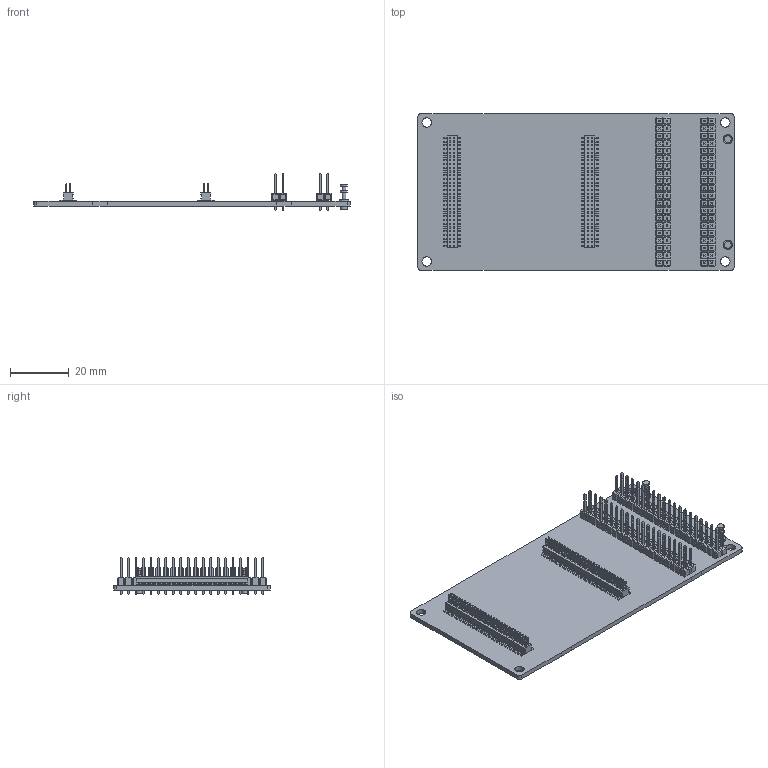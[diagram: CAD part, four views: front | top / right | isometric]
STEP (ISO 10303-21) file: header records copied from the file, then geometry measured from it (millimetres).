
FILE_DESCRIPTION(/* description */ (''),/* implementation_level */ '2;1');
FILE_NAME(/* name */ 'ABX00085-step.step',/* time_stamp */ '2026-03-24T12:04:50-04:00',/* author */ (''),/* organization */ (''),/* preprocessor_version */ 'ST-DEVELOPER v20.1',/* originating_system */ 'Autodesk Translation Framework v14.24.0.0',/* authorisation */ '');
FILE_SCHEMA (('AUTOMOTIVE_DESIGN { 1 0 10303 214 3 1 1 }'));
Length unit declared in the file: millimetre
Products named in the file (16): UNO Breakout Carrier; PCB; Board; Open CASCADE STEP translator 7.5 1.1.1; J3; J2; 1502-2--3DModel-STEP-56544_RGB8421504; J15; J14; pin4; JMISC_MALE; JMEDIA_MALE; FTSH-130-01-L-DV; FTSH-130-01-L-DV_body; FTSH-130-01-L-DV_pins1; FTSH-130-01-L-DV_pins2
Assembly tree (96 placements, depth 5):
  UNO Breakout Carrier
    PCB
      Board
        Open CASCADE STEP translator 7.5 1.1.1
      J3
        1502-2--3DModel-STEP-56544_RGB8421504
      J2
        1502-2--3DModel-STEP-56544_RGB8421504
      J15
        pin4  x40
      J14
        pin4  x40
      JMISC_MALE
        FTSH-130-01-L-DV
          FTSH-130-01-L-DV_body
          FTSH-130-01-L-DV_pins1
          FTSH-130-01-L-DV_pins2
      JMEDIA_MALE
        FTSH-130-01-L-DV
          FTSH-130-01-L-DV_body
          FTSH-130-01-L-DV_pins1
          FTSH-130-01-L-DV_pins2
Bounding box: 107.6 x 53.34 x 12.7 mm (x, y, z)
Volume: 11731.4 mm3; surface area: 21437.7 mm2
Topology: 169 solids, 169 shells, 5527 faces, 14415 edges, 9236 vertices
Faces by surface type: plane 5223, cylinder 302, cone 2
Full cylindrical faces by diameter (mm): 1.27 x4, 1.626 x2, 2.286 x2, 2.362 x4, 3.175 x2, 3.2 x4
Entity records: 41571 total; most frequent: CARTESIAN_POINT 7282, ORIENTED_EDGE 7150, DIRECTION 6545, EDGE_CURVE 3575, LINE 3417, VECTOR 3417, VERTEX_POINT 2301, AXIS2_PLACEMENT_3D 1564
